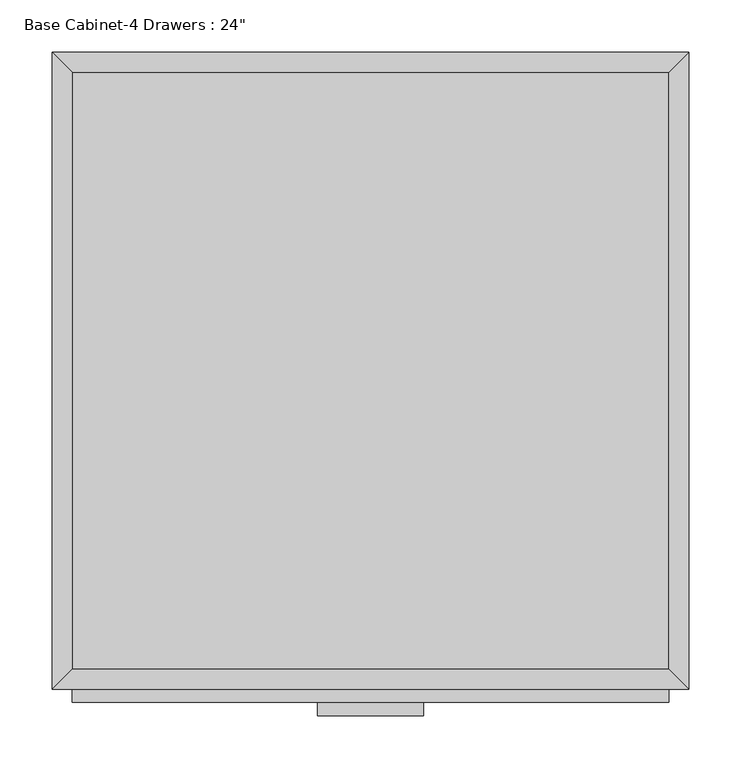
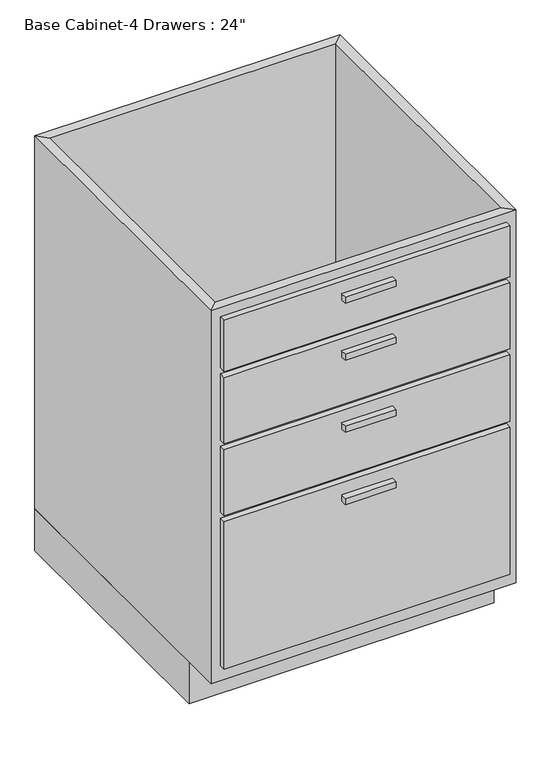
"""IFC4 building model written with IfcOpenShell, lengths in millimetres: furniture geometry."""

from ifc_helpers import new_model, si_unit, frame, origin, origin_with_axes, place, context, project, spatial, polyline, outline, extrude, faceted_brep, source, transform, mapped, element, save


def furniture_051cc21f(model_context):
    return source(origin(), model_context, "Body", "SolidModel", [
        extrude(outline(polyline([(69.5377049, -635.0), (-32.0622951, -635.0), (-32.0622951, -622.3), (69.5377049, -622.3), (69.5377049, -635.0)])), frame((0.0, 0.0, 819.15), z_axis=(0.0, 0.0, 1.0), x_axis=(1.0, 0.0, 0.0)), (0.0, 0.0, 1.0), 12.7),
        extrude(outline(polyline([(69.5377049, -635.0), (-32.0622951, -635.0), (-32.0622951, -622.3), (69.5377049, -622.3), (69.5377049, -635.0)])), frame((0.0, 0.0, 698.5), z_axis=(0.0, 0.0, 1.0), x_axis=(1.0, 0.0, 0.0)), (0.0, 0.0, 1.0), 12.7),
        extrude(outline(polyline([(69.5377049, -635.0), (-32.0622951, -635.0), (-32.0622951, -622.3), (69.5377049, -622.3), (69.5377049, -635.0)])), frame((0.0, 0.0, 546.1), z_axis=(0.0, 0.0, 1.0), x_axis=(1.0, 0.0, 0.0)), (0.0, 0.0, 1.0), 12.7),
        extrude(outline(polyline([(69.5377049, -635.0), (-32.0622951, -635.0), (-32.0622951, -622.3), (69.5377049, -622.3), (69.5377049, -635.0)])), frame((0.0, 0.0, 393.7), z_axis=(0.0, 0.0, 1.0), x_axis=(1.0, 0.0, 0.0)), (0.0, 0.0, 1.0), 12.7),
        extrude(outline(polyline([(304.4877049, -622.3), (-267.0122951, -622.3), (-267.0122951, -609.6), (304.4877049, -609.6), (304.4877049, -622.3)])), frame((0.0, 0.0, 749.3), z_axis=(0.0, 0.0, 1.0), x_axis=(1.0, 0.0, 0.0)), (0.0, 0.0, 1.0), 107.95),
        extrude(outline(polyline([(304.4877049, -622.3), (-267.0122951, -622.3), (-267.0122951, -609.6), (304.4877049, -609.6), (304.4877049, -622.3)])), frame((0.0, 0.0, 596.9), z_axis=(0.0, 0.0, 1.0), x_axis=(1.0, 0.0, 0.0)), (0.0, 0.0, 1.0), 139.7),
        extrude(outline(polyline([(304.4877049, -622.3), (-267.0122951, -622.3), (-267.0122951, -609.6), (304.4877049, -609.6), (304.4877049, -622.3)])), frame((0.0, 0.0, 444.5), z_axis=(0.0, 0.0, 1.0), x_axis=(1.0, 0.0, 0.0)), (0.0, 0.0, 1.0), 139.7),
        extrude(outline(polyline([(304.4877049, -622.3), (-267.0122951, -622.3), (-267.0122951, -609.6), (304.4877049, -609.6), (304.4877049, -622.3)])), frame((0.0, 0.0, 120.65), z_axis=(0.0, 0.0, 1.0), x_axis=(1.0, 0.0, 0.0)), (0.0, 0.0, 1.0), 311.15),
        extrude(outline(polyline([(304.4877049, -19.05), (304.4877049, -590.55), (-267.0122951, -590.55), (-267.0122951, -19.05), (304.4877049, -19.05)])), frame((0.0, 0.0, 88.9), z_axis=(0.0, 0.0, 1.0), x_axis=(1.0, 0.0, 0.0)), (0.0, 0.0, 1.0), 19.05),
        faceted_brep([(304.4877049, -590.55, 876.3), (304.4877049, -590.55, 88.9), (-267.0122951, -590.55, 88.9), (-267.0122951, -590.55, 876.3), (323.5377049, -609.6, 876.3), (-286.0622951, -609.6, 876.3), (323.5377049, -609.6, 88.9), (-286.0622951, -609.6, 88.9), (-267.0122951, -19.05, 88.9), (-267.0122951, -19.05, 876.3), (-286.0622951, 0.0, 876.3), (-286.0622951, 0.0, 88.9), (304.4877049, -19.05, 88.9), (304.4877049, -19.05, 876.3), (323.5377049, 0.0, 876.3), (323.5377049, 0.0, 88.9)], [[[0, 1, 2, 3]], [[4, 0, 3, 5]], [[6, 4, 5, 7]], [[1, 6, 7, 2]], [[3, 2, 8, 9]], [[5, 3, 9, 10]], [[7, 5, 10, 11]], [[2, 7, 11, 8]], [[9, 8, 12, 13]], [[10, 9, 13, 14]], [[11, 10, 14, 15]], [[8, 11, 15, 12]], [[13, 12, 1, 0]], [[14, 13, 0, 4]], [[15, 14, 4, 6]], [[12, 15, 6, 1]]]),
        extrude(outline(polyline([(323.5377049, 0.0), (323.5377049, -533.4), (-286.0622951, -533.4), (-286.0622951, 0.0), (323.5377049, 0.0)])), origin_with_axes(), (0.0, 0.0, 1.0), 88.9),
    ])


if __name__ == "__main__":
    model = new_model("IFC4")
    model_context = context("Model", 3, world=origin())
    ifc_project = project(units=[si_unit("LENGTHUNIT", "METRE", prefix="MILLI")], contexts=[model_context])
    site = spatial("IfcSite", under=ifc_project)
    building = spatial("IfcBuilding", under=site)
    placement = place(None, origin())
    furniture_shape = furniture_051cc21f(model_context)
    element("IfcFurniture", 1, ObjectType="Base Cabinet-4 Drawers : 24\"", at=placement, inside=building, context=model_context, shape_type="MappedRepresentation", body=[
        mapped(furniture_shape, transform((0.0, 0.0, 0.0), x_axis=(1.0, 0.0, 0.0), y_axis=(0.0, 1.0, 0.0), z_axis=(0.0, 0.0, 1.0))),
    ])
    save(model, "model.ifc")
